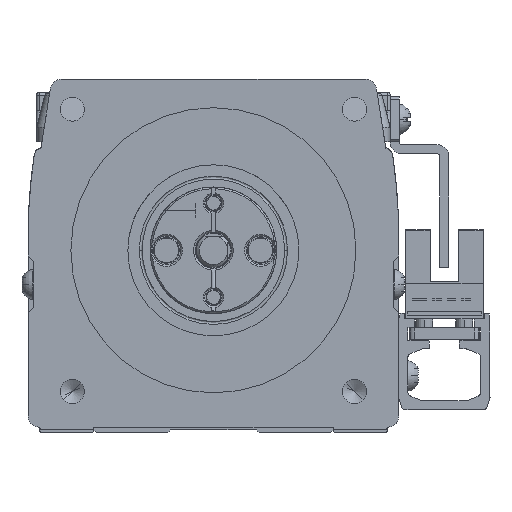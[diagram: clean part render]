
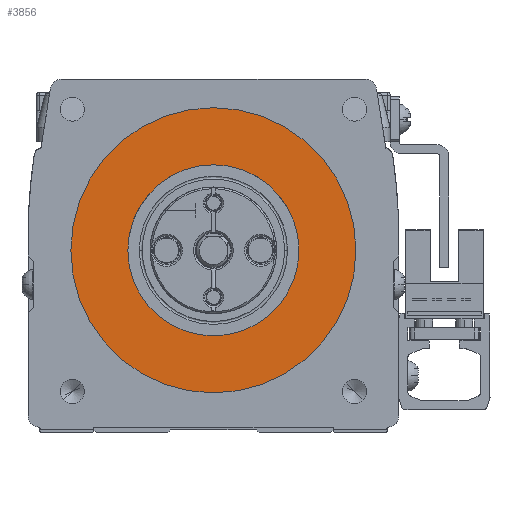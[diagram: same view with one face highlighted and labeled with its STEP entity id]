
A CAD part, left-side view. The second image highlights one B-rep face of the part: STEP entity #3856.
In plain terms, the highlighted planar face has unit normal (-1, 0, 0).
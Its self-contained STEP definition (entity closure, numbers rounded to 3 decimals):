
#3856=ADVANCED_FACE('',(#7018,#7019),#7020,.F.);
#7018=FACE_BOUND('',#12660,.T.);
#7019=FACE_OUTER_BOUND('',#12661,.T.);
#7020=PLANE('',#12662);
#12660=EDGE_LOOP('',(#23129,#23130));
#12661=EDGE_LOOP('',(#23131,#23132));
#12662=AXIS2_PLACEMENT_3D('',#23133,#23134,#23135);
#23129=ORIENTED_EDGE('',*,*,#42001,.T.);
#23130=ORIENTED_EDGE('',*,*,#42099,.T.);
#23131=ORIENTED_EDGE('',*,*,#42132,.T.);
#23132=ORIENTED_EDGE('',*,*,#41993,.T.);
#23133=CARTESIAN_POINT('',(-76.5,0.,0.));
#23134=DIRECTION('',(1.0,0.,0.));
#23135=DIRECTION('',(0.,1.0,0.));
#41993=EDGE_CURVE('',#49656,#49653,#49657,.T.);
#42001=EDGE_CURVE('',#49670,#49667,#49671,.T.);
#42099=EDGE_CURVE('',#49667,#49670,#49832,.T.);
#42132=EDGE_CURVE('',#49653,#49656,#49889,.T.);
#49653=VERTEX_POINT('',#62017);
#49656=VERTEX_POINT('',#62021);
#49657=CIRCLE('',#62022,25.0);
#49667=VERTEX_POINT('',#62057);
#49670=VERTEX_POINT('',#62061);
#49671=CIRCLE('',#62062,15.0);
#49832=CIRCLE('',#62344,15.0);
#49889=CIRCLE('',#62480,25.0);
#62017=CARTESIAN_POINT('',(-76.5,25.,0.));
#62021=CARTESIAN_POINT('',(-76.5,-25.,0.));
#62022=AXIS2_PLACEMENT_3D('',#78585,#78586,#78587);
#62057=CARTESIAN_POINT('',(-76.5,15.0,0.));
#62061=CARTESIAN_POINT('',(-76.5,-15.,0.));
#62062=AXIS2_PLACEMENT_3D('',#78595,#78596,#78597);
#62344=AXIS2_PLACEMENT_3D('',#78755,#78756,#78757);
#62480=AXIS2_PLACEMENT_3D('',#78812,#78813,#78814);
#78585=CARTESIAN_POINT('',(-76.5,0.,0.));
#78586=DIRECTION('',(-1.0,0.,0.));
#78587=DIRECTION('',(0.,1.0,0.));
#78595=CARTESIAN_POINT('',(-76.5,0.,0.));
#78596=DIRECTION('',(1.0,0.,0.));
#78597=DIRECTION('',(0.,1.0,0.));
#78755=CARTESIAN_POINT('',(-76.5,0.,0.));
#78756=DIRECTION('',(1.0,0.,0.));
#78757=DIRECTION('',(0.,1.0,0.));
#78812=CARTESIAN_POINT('',(-76.5,0.,0.));
#78813=DIRECTION('',(-1.0,0.,0.));
#78814=DIRECTION('',(0.,1.0,0.));
